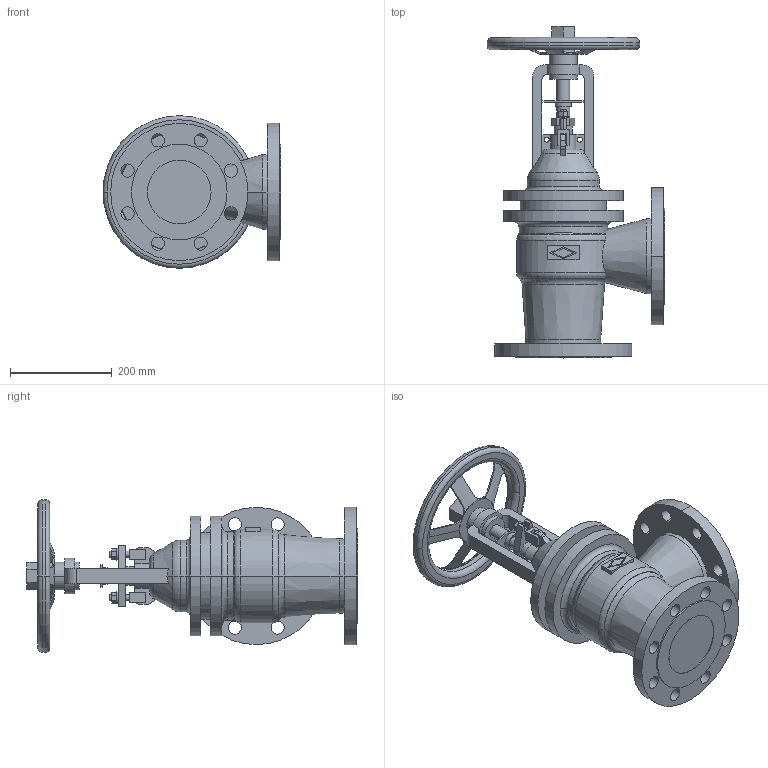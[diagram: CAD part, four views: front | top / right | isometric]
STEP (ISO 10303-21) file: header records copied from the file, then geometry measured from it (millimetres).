
FILE_DESCRIPTION(('OneSpaceDesigner STEP Export'),'2;1');
FILE_NAME('c000004454.stp','2010-05-17T 9:55:51',(''),(''),'OneSpace Designer STEP processor for AP214 (Solid Model)','OneSpace Modeling 15.50B 03-Nov-2007 (C) CoCreate Software GmbH','');
FILE_SCHEMA(('AUTOMOTIVE_DESIGN { 1 0 10303 214 1 1 1 1 }'));
Length unit declared in the file: millimetre
Products named in the file (1): 1
Bounding box: 350 x 652.7 x 300 mm (x, y, z)
Volume: 13731126.9 mm3; surface area: 803735.9 mm2
Topology: 1 solids, 1 shells, 339 faces, 918 edges, 602 vertices
Faces by surface type: cylinder 150, plane 145, torus 28, cone 16
Entity records: 13670 total; most frequent: CARTESIAN_POINT 2999, ORIENTED_EDGE 1836, DIRECTION 1406, EDGE_CURVE 918, VERTEX_POINT 602, AXIS2_PLACEMENT_3D 489, VECTOR 428, LINE 428
